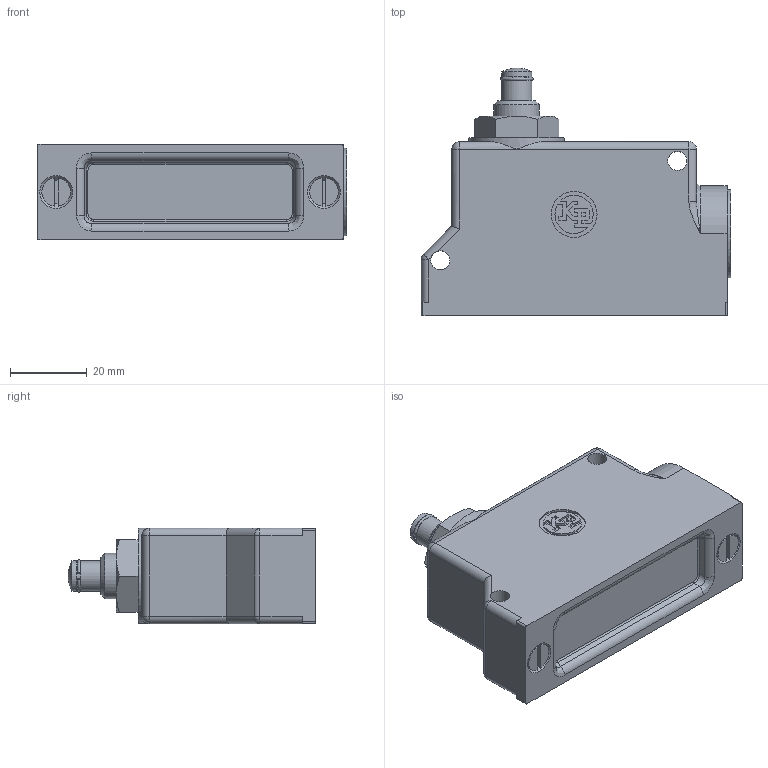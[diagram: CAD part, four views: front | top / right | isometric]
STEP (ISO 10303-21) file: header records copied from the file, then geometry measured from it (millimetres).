
FILE_DESCRIPTION(('Microrutor Basico Protegido Fixacao Lateral Atuador Botao'),'2;1');
FILE_NAME('E:\WorkFolder\Bibl\3DWeb\kp_mc_mc5c_step.stp','2013-01-11T11:13:25',('DIE'),('KAP'),'Autodesk Inventor 2011','Autodesk Inventor 2011','Direitos reservados. Proibido reproducao, cedencia ou revelacao de conteudo a terceiros, salvo com autorizacao.');
FILE_SCHEMA(('AUTOMOTIVE_DESIGN { 1 0 10303 214 1 1 1 1 }'));
Length unit declared in the file: millimetre
Products named in the file (3): MC5C_3D; MC_Caixa_5; MC_Atuador_C
Assembly tree (2 placements, depth 2):
  MC5C_3D
    MC_Caixa_5
    MC_Atuador_C
Bounding box: 81 x 64.79 x 25 mm (x, y, z)
Volume: 78944.2 mm3; surface area: 16685.2 mm2
Topology: 2 solids, 9 shells, 256 faces, 601 edges, 375 vertices
Faces by surface type: plane 134, cylinder 79, bspline 18, cone 14, sphere 7, torus 4
Full cylindrical faces by diameter (mm): 2.459 x1, 3 x4, 3.242 x2, 4 x2, 4.805 x2, 5 x4, 6.2 x1, 7 x1, 7.937 x2, 11.9 x1, 12 x1, 18.5 x1, 23 x1, 25 x1
Entity records: 7840 total; most frequent: CARTESIAN_POINT 1945, DIRECTION 1172, ORIENTED_EDGE 1094, EDGE_CURVE 547, AXIS2_PLACEMENT_3D 435, VERTEX_POINT 362, EDGE_LOOP 319, VECTOR 302
